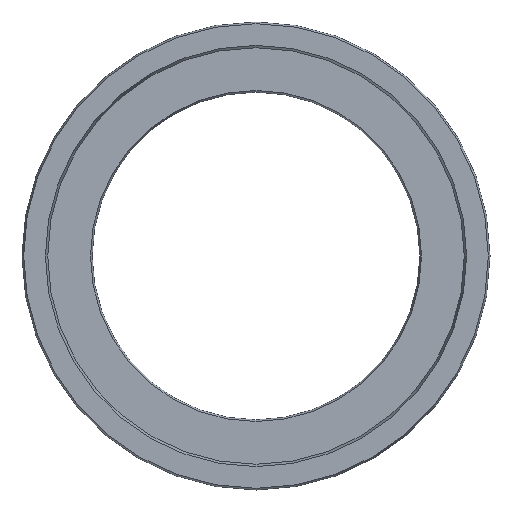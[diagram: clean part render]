
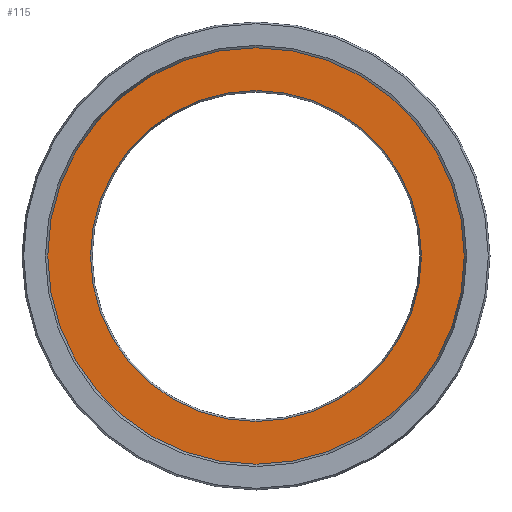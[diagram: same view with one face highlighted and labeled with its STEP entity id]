
A CAD part, left-side view. The second image highlights one B-rep face of the part: STEP entity #115.
In plain terms, the highlighted planar face has unit normal (-1, 0, 0).
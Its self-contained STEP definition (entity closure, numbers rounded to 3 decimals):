
#115=ADVANCED_FACE('',(#149,#150),#141,.F.);
#141=PLANE('',#386);
#149=FACE_BOUND('',#201,.T.);
#150=FACE_BOUND('',#202,.T.);
#201=EDGE_LOOP('',(#253));
#202=EDGE_LOOP('',(#254));
#253=ORIENTED_EDGE('',*,*,#331,.T.);
#254=ORIENTED_EDGE('',*,*,#332,.T.);
#305=VERTEX_POINT('',#544);
#306=VERTEX_POINT('',#546);
#331=EDGE_CURVE('',#305,#305,#357,.T.);
#332=EDGE_CURVE('',#306,#306,#358,.T.);
#357=CIRCLE('',#384,35.364);
#358=CIRCLE('',#385,44.5);
#384=AXIS2_PLACEMENT_3D('',#543,#438,#439);
#385=AXIS2_PLACEMENT_3D('',#545,#440,#441);
#386=AXIS2_PLACEMENT_3D('',#547,#442,#443);
#438=DIRECTION('',(1.,0.,0.));
#439=DIRECTION('',(0.,0.,-1.));
#440=DIRECTION('',(-1.,0.,0.));
#441=DIRECTION('',(0.,0.,1.));
#442=DIRECTION('',(1.,0.,0.));
#443=DIRECTION('',(0.,0.,-1.));
#543=CARTESIAN_POINT('',(0.,0.,0.));
#544=CARTESIAN_POINT('',(0.,0.,-35.364));
#545=CARTESIAN_POINT('',(0.,0.,0.));
#546=CARTESIAN_POINT('',(0.,0.,44.5));
#547=CARTESIAN_POINT('',(0.,44.5,0.));
